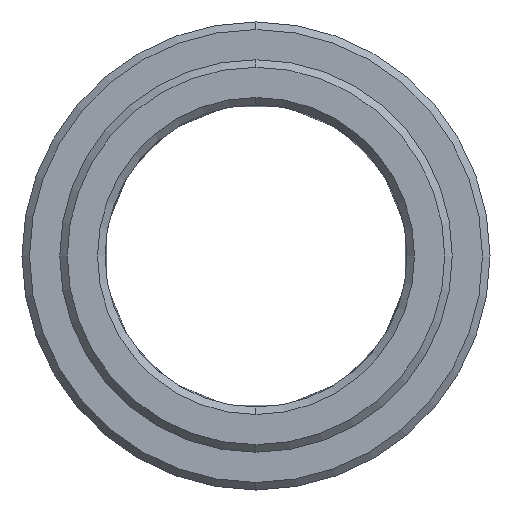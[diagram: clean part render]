
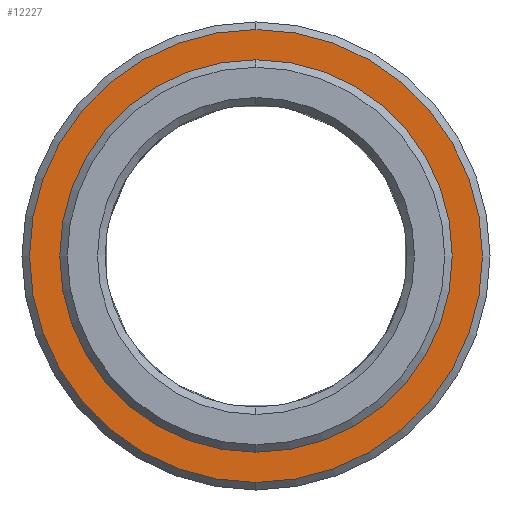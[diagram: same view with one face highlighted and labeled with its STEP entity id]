
A CAD part, left-side view. The second image highlights one B-rep face of the part: STEP entity #12227.
In plain terms, the highlighted planar face has unit normal (-1, 0, 0).
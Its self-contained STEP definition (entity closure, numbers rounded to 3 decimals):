
#4808=CARTESIAN_POINT('',(0.,0.,0.));
#4809=DIRECTION('',(1.,0.,0.));
#4810=DIRECTION('',(0.,0.,1.));
#4811=AXIS2_PLACEMENT_3D('',#4808,#4809,#4810);
#4813=CARTESIAN_POINT('',(0.,0.,0.));
#4814=DIRECTION('',(-1.,0.,0.));
#4815=DIRECTION('',(0.,0.,1.));
#4816=AXIS2_PLACEMENT_3D('',#4813,#4814,#4815);
#4818=CARTESIAN_POINT('',(0.,0.,0.));
#4819=DIRECTION('',(1.,0.,0.));
#4820=DIRECTION('',(0.,0.,-1.));
#4821=AXIS2_PLACEMENT_3D('',#4818,#4819,#4820);
#4823=CARTESIAN_POINT('',(0.,0.,
0.));
#4824=DIRECTION('',(1.,0.,0.));
#4825=DIRECTION('',(0.,0.,1.));
#4826=AXIS2_PLACEMENT_3D('',#4823,#4824,#4825);
#9830=CARTESIAN_POINT('',(0.,0.,-15.));
#9831=CARTESIAN_POINT('',(0.,0.,15.));
#9832=VERTEX_POINT('',#9830);
#9833=VERTEX_POINT('',#9831);
#10194=CARTESIAN_POINT('',(0.,0.,13.));
#10195=CARTESIAN_POINT('',(0.,0.,-13.));
#10196=VERTEX_POINT('',#10194);
#10197=VERTEX_POINT('',#10195);
#12212=CARTESIAN_POINT('',(0.,0.,0.));
#12213=DIRECTION('',(1.,0.,0.));
#12214=DIRECTION('',(0.,0.,1.));
#12215=AXIS2_PLACEMENT_3D('',#12212,#12213,#12214);
#12216=PLANE('',#12215);
#12218=ORIENTED_EDGE('',*,*,#12217,.T.);
#12220=ORIENTED_EDGE('',*,*,#12219,.T.);
#12221=EDGE_LOOP('',(#12218,#12220));
#12222=FACE_OUTER_BOUND('',#12221,.F.);
#12223=ORIENTED_EDGE('',*,*,#12179,.F.);
#12224=ORIENTED_EDGE('',*,*,#12194,.T.);
#12225=EDGE_LOOP('',(#12223,#12224));
#12226=FACE_BOUND('',#12225,.F.);
#12227=ADVANCED_FACE('',(#12222,#12226),#12216,.F.);
#4812=CIRCLE('',#4811,13.);
#4817=CIRCLE('',#4816,13.);
#4822=CIRCLE('',#4821,15.);
#4827=CIRCLE('',#4826,15.);
#12179=EDGE_CURVE('',#10196,#10197,#4812,.T.);
#12194=EDGE_CURVE('',#10196,#10197,#4817,.T.);
#12217=EDGE_CURVE('',#9832,#9833,#4822,.T.);
#12219=EDGE_CURVE('',#9833,#9832,#4827,.T.);
